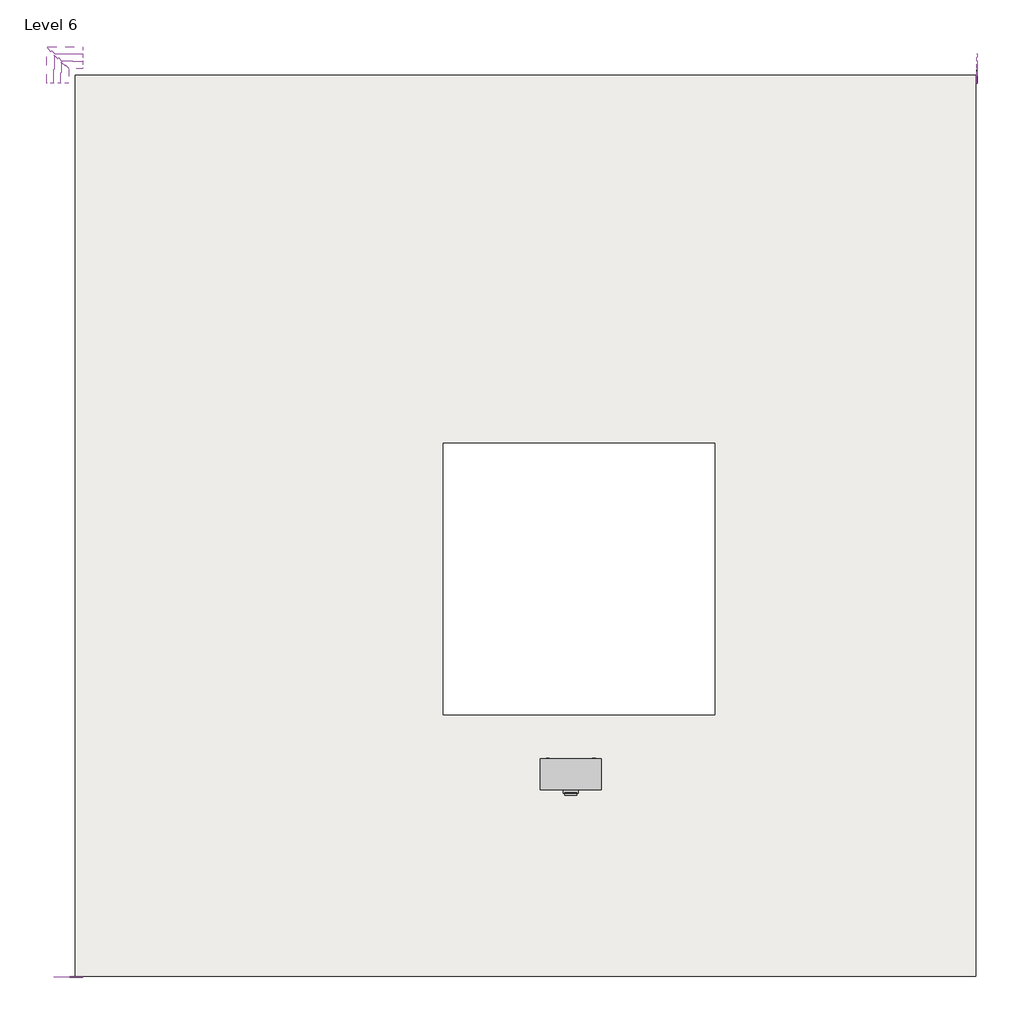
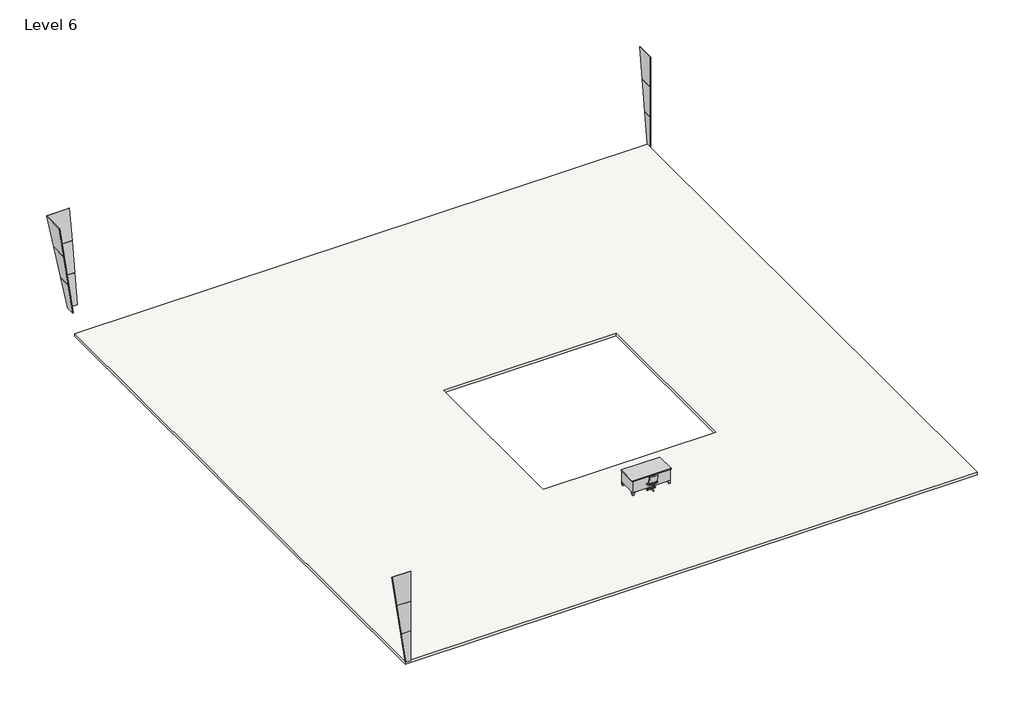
# One storey, incomplete: 12 plates, 2 furniture elements, 1 slab.
"""IFC4 building model written with IfcOpenShell, lengths in millimetres."""

from ifc_helpers import new_model, si_unit, frame, origin, place, context, project, spatial, polyline, outline, extrude, transform, mapped, element, save
from components import chair_desk_chair_desk_ccc35c8f, furniture_2fc54265, system_panel_glazed_22788083, system_panel_glazed_bc233fa8, system_panel_glazed_654f78e0, system_panel_glazed_e1c1aaf6, system_panel_glazed_42b3e05b, system_panel_glazed_c09c1aab, system_panel_glazed_acc2c7cf, system_panel_glazed_a39baa39, system_panel_glazed_e8e4244b, system_panel_glazed_ef20b260, system_panel_glazed_e2cf116b, system_panel_glazed_0eafb632

model = new_model("IFC4")

# Units and contexts
model_context = context("Model", 3, world=origin())
ifc_project = project(units=[si_unit("LENGTHUNIT", "METRE", prefix="MILLI")], contexts=[model_context])

# Site, building, storey
site = spatial("IfcSite", under=ifc_project)
building = spatial("IfcBuilding", under=site)
storey = spatial("IfcBuildingStorey", under=building, Name="Level 6", Elevation=22860.0)

# Furniture
placement = place(None, origin())
chair_desk_chair_desk_shape = chair_desk_chair_desk_ccc35c8f(model_context)
element("IfcFurniture", 1, ObjectType="Chair-Desk : Chair-Desk", at=placement, inside=storey, context=model_context, shape_type="MappedRepresentation", body=[
    mapped(chair_desk_chair_desk_shape, transform((-3928.2026957, -6947.9708988, 22860.0), x_axis=(1.0, 0.0, 0.0), y_axis=(0.0, 1.0, 0.0), z_axis=(0.0, 0.0, 1.0))),
])
furniture_shape = furniture_2fc54265(model_context)
element("IfcFurniture", 2, ObjectType="Desk : 72\" x 36\"", at=placement, inside=storey, context=model_context, shape_type="MappedRepresentation", body=[
    mapped(furniture_shape, transform((-4842.6026957, -6820.9708988, 22860.0), x_axis=(1.0, 0.0, 0.0), y_axis=(0.0, 1.0, 0.0), z_axis=(0.0, 0.0, 1.0))),
])

# Plates
system_panel_glazed_shape = system_panel_glazed_22788083(model_context)
element("IfcPlate", 3, ObjectType="System Panel : Glazed", at=placement, inside=storey, context=model_context, shape_type="MappedRepresentation", body=[
    mapped(system_panel_glazed_shape, transform((-19235.0882139, 15295.3547828, 24135.4434875), x_axis=(1.0, 0.0, 0.0), y_axis=(0.0, 0.9898065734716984, -0.1424182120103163), z_axis=(0.0, 0.1424182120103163, 0.9898065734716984))),
])
system_panel_glazed_2_shape = system_panel_glazed_bc233fa8(model_context)
element("IfcPlate", 4, ObjectType="System Panel : Glazed", at=placement, inside=storey, context=model_context, shape_type="MappedRepresentation", body=[
    mapped(system_panel_glazed_2_shape, transform((-19343.6108914, 15512.4001379, 25643.9087055), x_axis=(1.0, 0.0, 0.0), y_axis=(0.0, 0.9898065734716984, -0.1424182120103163), z_axis=(0.0, 0.1424182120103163, 0.9898065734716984))),
])
system_panel_glazed_3_shape = system_panel_glazed_654f78e0(model_context)
element("IfcPlate", 5, ObjectType="System Panel : Glazed", at=placement, inside=storey, context=model_context, shape_type="MappedRepresentation", body=[
    mapped(system_panel_glazed_3_shape, transform((-19452.133569, 15729.445493, 27152.3739235), x_axis=(1.0, 0.0, 0.0), y_axis=(0.0, 0.9898065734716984, -0.1424182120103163), z_axis=(0.0, 0.1424182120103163, 0.9898065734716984))),
])
system_panel_glazed_4_shape = system_panel_glazed_e1c1aaf6(model_context)
element("IfcPlate", 6, ObjectType="System Panel : Glazed", at=placement, inside=storey, context=model_context, shape_type="MappedRepresentation", body=[
    mapped(system_panel_glazed_4_shape, transform((-19338.9283773, 15191.5146197, 24135.4434875), x_axis=(0.0, 1.0, 0.0), y_axis=(-0.9898065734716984, 0.0, -0.1424182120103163), z_axis=(-0.1424182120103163, 0.0, 0.9898065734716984))),
])
system_panel_glazed_5_shape = system_panel_glazed_42b3e05b(model_context)
element("IfcPlate", 7, ObjectType="System Panel : Glazed", at=placement, inside=storey, context=model_context, shape_type="MappedRepresentation", body=[
    mapped(system_panel_glazed_5_shape, transform((-19555.9737324, 15300.0372972, 25643.9087055), x_axis=(0.0, 1.0, 0.0), y_axis=(-0.9898065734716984, 0.0, -0.1424182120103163), z_axis=(-0.1424182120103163, 0.0, 0.9898065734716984))),
])
system_panel_glazed_6_shape = system_panel_glazed_c09c1aab(model_context)
element("IfcPlate", 8, ObjectType="System Panel : Glazed", at=placement, inside=storey, context=model_context, shape_type="MappedRepresentation", body=[
    mapped(system_panel_glazed_6_shape, transform((-19773.0190875, 15408.5599748, 27152.3739235), x_axis=(0.0, 1.0, 0.0), y_axis=(-0.9898065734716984, 0.0, -0.1424182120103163), z_axis=(-0.1424182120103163, 0.0, 0.9898065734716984))),
])
system_panel_glazed_7_shape = system_panel_glazed_acc2c7cf(model_context)
element("IfcPlate", 9, ObjectType="System Panel : Glazed", at=placement, inside=storey, context=model_context, shape_type="MappedRepresentation", body=[
    mapped(system_panel_glazed_7_shape, transform((8517.7973043, 15100.8737053, 22860.0), x_axis=(0.0, -1.0, 0.0), y_axis=(1.0, 0.0, 0.0), z_axis=(0.0, 0.0, 1.0))),
])
system_panel_glazed_8_shape = system_panel_glazed_a39baa39(model_context)
element("IfcPlate", 10, ObjectType="System Panel : Glazed", at=placement, inside=storey, context=model_context, shape_type="MappedRepresentation", body=[
    mapped(system_panel_glazed_8_shape, transform((8517.7973043, 15210.5139931, 24384.0), x_axis=(0.0, -1.0, 0.0), y_axis=(1.0, 0.0, 0.0), z_axis=(0.0, 0.0, 1.0))),
])
system_panel_glazed_9_shape = system_panel_glazed_e8e4244b(model_context)
element("IfcPlate", 11, ObjectType="System Panel : Glazed", at=placement, inside=storey, context=model_context, shape_type="MappedRepresentation", body=[
    mapped(system_panel_glazed_9_shape, transform((8517.7973043, 15320.1542809, 25908.0), x_axis=(0.0, -1.0, 0.0), y_axis=(1.0, 0.0, 0.0), z_axis=(0.0, 0.0, 1.0))),
])
system_panel_glazed_10_shape = system_panel_glazed_ef20b260(model_context)
element("IfcPlate", 12, ObjectType="System Panel : Glazed", at=placement, inside=storey, context=model_context, shape_type="MappedRepresentation", body=[
    mapped(system_panel_glazed_10_shape, transform((-19144.4473001, -12561.3708988, 22860.0), x_axis=(-1.0, 0.0, 0.0), y_axis=(0.0, -1.0, 0.0), z_axis=(0.0, 0.0, 1.0))),
])
system_panel_glazed_11_shape = system_panel_glazed_e2cf116b(model_context)
element("IfcPlate", 13, ObjectType="System Panel : Glazed", at=placement, inside=storey, context=model_context, shape_type="MappedRepresentation", body=[
    mapped(system_panel_glazed_11_shape, transform((-19254.0875879, -12561.3708988, 24384.0), x_axis=(-1.0, 0.0, 0.0), y_axis=(0.0, -1.0, 0.0), z_axis=(0.0, 0.0, 1.0))),
])
system_panel_glazed_12_shape = system_panel_glazed_0eafb632(model_context)
element("IfcPlate", 14, ObjectType="System Panel : Glazed", at=placement, inside=storey, context=model_context, shape_type="MappedRepresentation", body=[
    mapped(system_panel_glazed_12_shape, transform((-19363.7278757, -12561.3708988, 25908.0), x_axis=(-1.0, 0.0, 0.0), y_axis=(0.0, -1.0, 0.0), z_axis=(0.0, 0.0, 1.0))),
])

# Slab
element("IfcSlab", 15, ObjectType="3\" LW Concrete on 2\" Metal Deck", at=placement, inside=storey, context=model_context, shape_type="SweptSolid", body=[
    extrude(outline(polyline([(-19155.4113287, -12561.3708988), (-19155.4113287, 15111.8377343), (8517.7973043, 15111.8377343), (8517.7973043, -12561.3708988), (-19155.4113287, -12561.3708988)]), holes=[polyline([(-7844.5651957, 3800.9916012), (-7844.5651957, -4539.7333988), (496.1598043, -4539.7333988), (496.1598043, 3800.9916012), (-7844.5651957, 3800.9916012)])]), frame((0.0, 0.0, 22733.0), z_axis=(0.0, 0.0, 1.0), x_axis=(1.0, 0.0, 0.0)), (0.0, 0.0, 1.0), 127.0),
])

save(model, "model.ifc")
